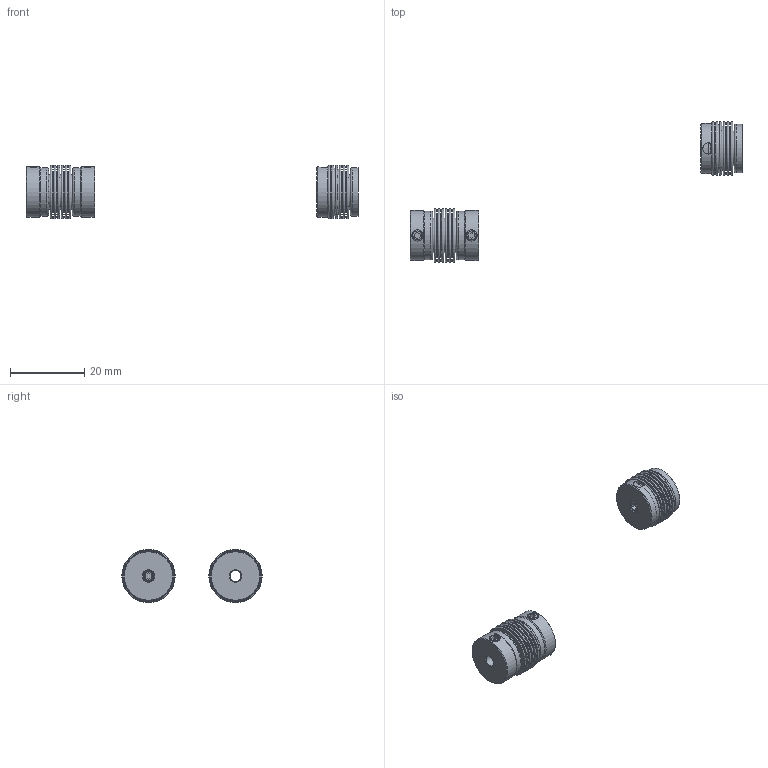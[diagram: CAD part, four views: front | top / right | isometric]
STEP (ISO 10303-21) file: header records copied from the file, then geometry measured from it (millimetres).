
FILE_DESCRIPTION( ( 'Unknown' ), '1' );
FILE_NAME( 'C:/Dokumente und Einstellungen/Sven/Desktop/cad - homepage/KB1/KB1-5-19.stp', 'Unknown', ( 'Unknown' ), ( 'Unknown' ), 'XStep 1.0', 'Unknown', ' ' );
FILE_SCHEMA( ( 'automotive_design' ) );
Length unit declared in the file: millimetre
Products named in the file (4): Assem1; MN5_Standard; BK5_Standard; Socket Set Screw Cup Point_DIN_DIN 916 - M3 x 4-N_3
Bounding box: 89.6 x 37.88 x 14.4 mm (x, y, z)
Volume: 2621.6 mm3; surface area: 8209.8 mm2
Topology: 8 solids, 8 shells, 194 faces, 368 edges, 240 vertices
Faces by surface type: plane 90, torus 60, cylinder 23, cone 21
Full cylindrical faces by diameter (mm): 3 x9, 12.9 x7, 13.1 x4, 13.5 x3
Entity records: 2041 total; most frequent: DIRECTION 360, CARTESIAN_POINT 332, ORIENTED_EDGE 196, AXIS2_PLACEMENT_3D 171, EDGE_LOOP 166, FACE_OUTER_BOUND 125, EDGE_CURVE 98, VERTEX_POINT 93
